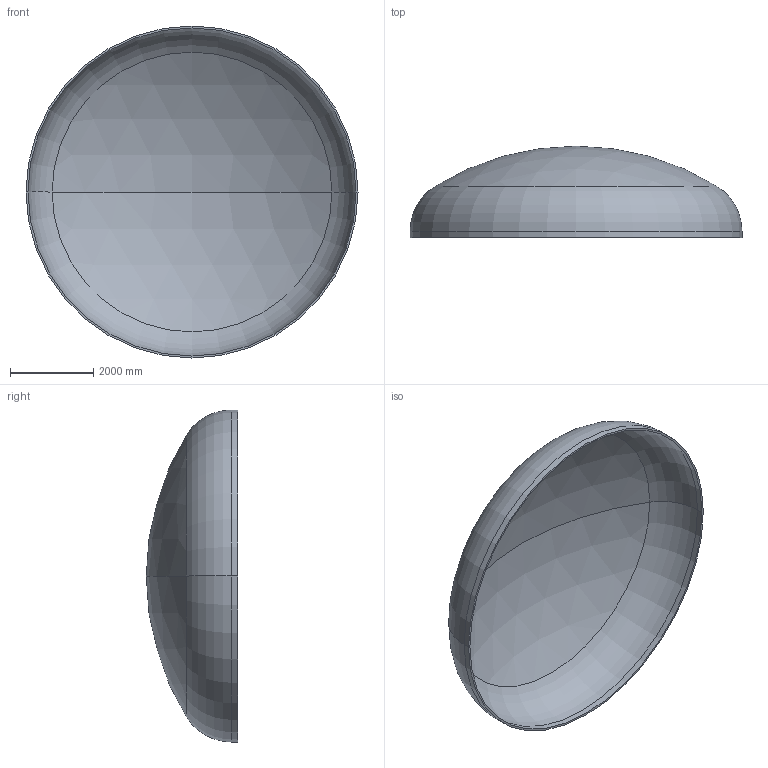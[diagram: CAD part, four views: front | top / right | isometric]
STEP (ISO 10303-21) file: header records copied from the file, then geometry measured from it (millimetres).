
FILE_DESCRIPTION (( 'STEP AP203' ), '1' );
FILE_NAME ('DIN 28013 Korbbogenform_-_Boden DIN 28013 - 8000 x 150 - I - s=47.step', '2016-07-04T11:02:03', ( '' ), ( '' ), 'SwSTEP 2.0', 'SolidWorks 2013', '' );
FILE_SCHEMA (( 'CONFIG_CONTROL_DESIGN' ));
Length unit declared in the file: millimetre
Products named in the file (1): DIN 28013 Korbbogenform_-_Boden DIN 28013 - 8000 x 150 - I - s=47
Bounding box: 8000 x 2202.21 x 8000 mm (x, y, z)
Volume: 3421876090.2 mm3; surface area: 146790617.2 mm2
Topology: 1 solids, 1 shells, 13 faces, 24 edges, 14 vertices
Faces by surface type: torus 4, cylinder 4, sphere 4, plane 1
Entity records: 407 total; most frequent: DIRECTION 72, CARTESIAN_POINT 52, ORIENTED_EDGE 48, AXIS2_PLACEMENT_3D 34, EDGE_CURVE 24, CIRCLE 20, EDGE_LOOP 14, VERTEX_POINT 14
